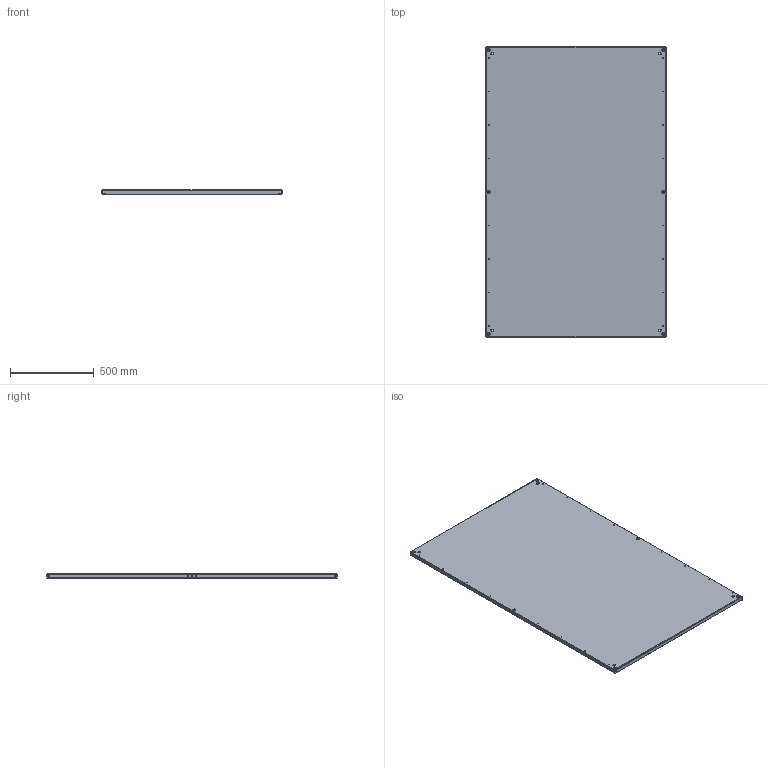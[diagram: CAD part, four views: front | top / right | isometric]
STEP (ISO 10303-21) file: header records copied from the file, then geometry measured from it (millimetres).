
FILE_DESCRIPTION(('STEP AP203'), '1');
FILE_NAME('Ïàíåëü ìîíòàæíàÿ óñèëåííàÿ Â1800õØ1200 ìì OptiBox M 419704 ÊÝÀÇ', '', ('UNSPECIFIED'), ('UNSPECIFIED'), 'C3D Converter', 'C3D Toolkit', '');
FILE_SCHEMA(('CONFIG_CONTROL_DESIGN'));
Length unit declared in the file: millimetre
Bounding box: 1078 x 1733 x 24.6 mm (x, y, z)
Volume: 6145563.4 mm3; surface area: 4118309.7 mm2
Topology: 1 solids, 1 shells, 112 faces, 282 edges, 172 vertices
Faces by surface type: cylinder 58, plane 46, bspline 8
Full cylindrical faces by diameter (mm): 5 x28, 7.3 x2, 9 x6, 18 x6
Entity records: 4732 total; most frequent: CARTESIAN_POINT 1985, DIRECTION 530, ORIENTED_EDGE 480, EDGE_LOOP 246, EDGE_CURVE 240, AXIS2_PLACEMENT_3D 205, VERTEX_POINT 172, FACE_BOUND 162
